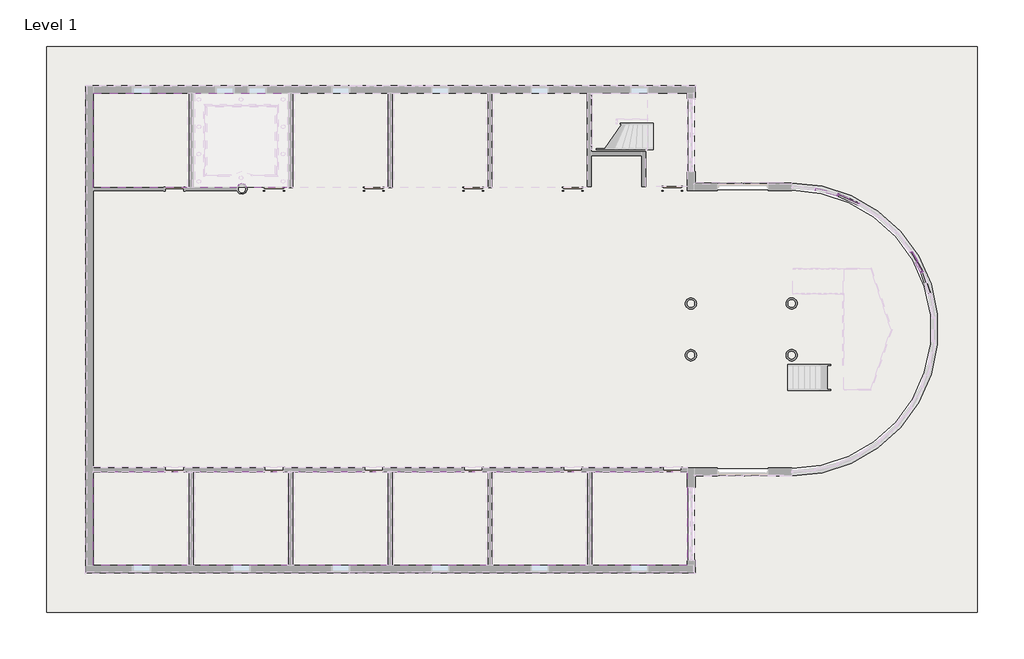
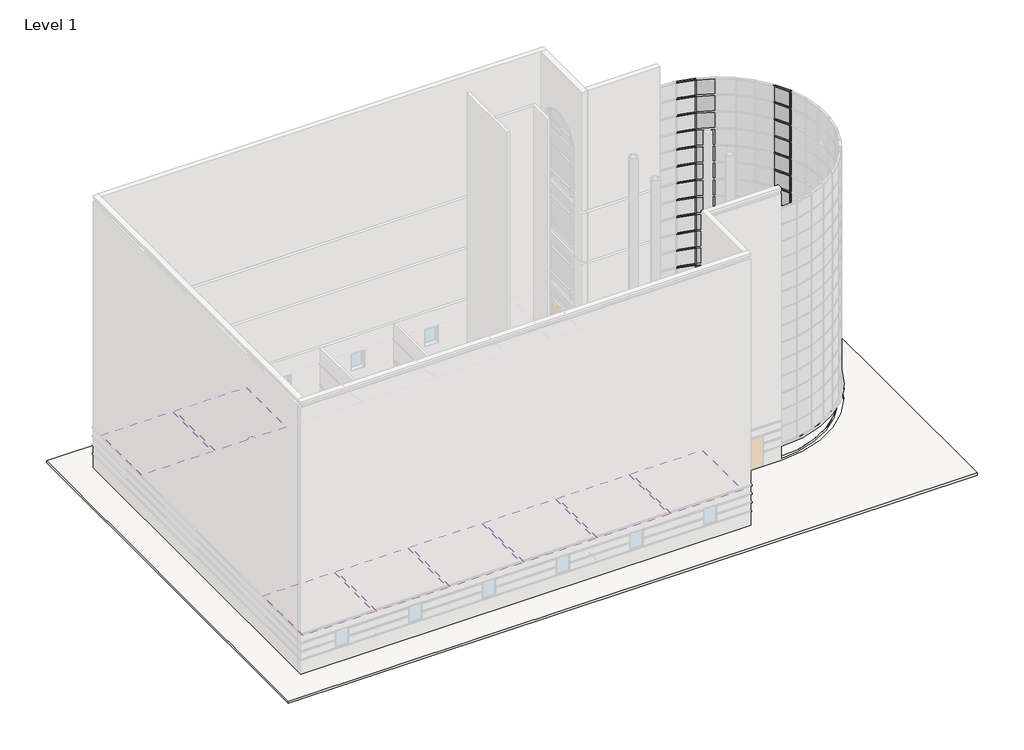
# One storey, part 15 of 20: 58 members, 26 plates, 8 coverings, 2 slabs.
"""IFC4 building model written with IfcOpenShell, lengths in millimetres."""

from ifc_helpers import new_model, si_unit, point, frame, frame_2d, origin, place, context, project, spatial, polyline, circle_curve, trimmed, segment, composite_curve, outline, extrude, transform, mapped, element, save
from components import member_68fe8548, member_f830fa99, member_935f61b8, system_panel_glazed_da602fa6, system_panel_glazed_77fd207e

model = new_model("IFC4")

# Units and contexts
model_context = context("Model", 3, world=origin())
ifc_project = project(units=[si_unit("LENGTHUNIT", "METRE", prefix="MILLI")], contexts=[model_context])

# Site, building, storey
site = spatial("IfcSite", under=ifc_project)
building = spatial("IfcBuilding", under=site)
storey = spatial("IfcBuildingStorey", under=building, Name="Level 1", Elevation=0.0)

# Coverings
placement = place(None, origin())
element("IfcCovering", 1, ObjectType="2' x 4' ACT System", at=placement, inside=storey, context=model_context, shape_type="SweptSolid", body=[
    extrude(outline(polyline([(-17066.4410279, 4612.5398319), (-17066.4410279, 9333.7648319), (-12240.9701946, 9333.7648319), (-12240.9701946, 4612.5398319), (-17066.4410279, 4612.5398319)])), frame((0.0, 0.0, 2438.4), z_axis=(0.0, 0.0, 1.0), x_axis=(1.0, 0.0, 0.0)), (0.0, 0.0, 1.0), 57.15),
])
element("IfcCovering", 2, ObjectType="2' x 4' ACT System", at=placement, inside=storey, context=model_context, shape_type="SweptSolid", body=[
    extrude(outline(polyline([(12708.7089721, -9624.1601681), (12708.7089721, -14345.3851681), (7883.2381388, -14345.3851681), (7883.2381388, -9624.1601681), (12708.7089721, -9624.1601681)])), frame((0.0, 0.0, 2438.4), z_axis=(0.0, 0.0, 1.0), x_axis=(1.0, 0.0, 0.0)), (0.0, 0.0, 1.0), 57.15),
])
element("IfcCovering", 3, ObjectType="2' x 4' ACT System", at=placement, inside=storey, context=model_context, shape_type="SweptSolid", body=[
    extrude(outline(polyline([(7727.6631388, -14345.3851681), (2891.0798054, -14345.3851681), (2891.0798054, -9624.1601681), (7727.6631388, -9624.1601681), (7727.6631388, -14345.3851681)])), frame((0.0, 0.0, 2438.4), z_axis=(0.0, 0.0, 1.0), x_axis=(1.0, 0.0, 0.0)), (0.0, 0.0, 1.0), 57.15),
])
element("IfcCovering", 4, ObjectType="2' x 4' ACT System", at=placement, inside=storey, context=model_context, shape_type="SweptSolid", body=[
    extrude(outline(polyline([(2735.5048054, -14345.3851681), (-2101.0785279, -14345.3851681), (-2101.0785279, -9624.1601681), (2735.5048054, -9624.1601681), (2735.5048054, -14345.3851681)])), frame((0.0, 0.0, 2438.4), z_axis=(0.0, 0.0, 1.0), x_axis=(1.0, 0.0, 0.0)), (0.0, 0.0, 1.0), 57.15),
])
element("IfcCovering", 5, ObjectType="2' x 4' ACT System", at=placement, inside=storey, context=model_context, shape_type="SweptSolid", body=[
    extrude(outline(polyline([(-2256.6535279, -14345.3851681), (-7093.2368612, -14345.3851681), (-7093.2368612, -9624.1601681), (-2256.6535279, -9624.1601681), (-2256.6535279, -14345.3851681)])), frame((0.0, 0.0, 2438.4), z_axis=(0.0, 0.0, 1.0), x_axis=(1.0, 0.0, 0.0)), (0.0, 0.0, 1.0), 57.15),
])
element("IfcCovering", 6, ObjectType="2' x 4' ACT System", at=placement, inside=storey, context=model_context, shape_type="SweptSolid", body=[
    extrude(outline(polyline([(-7248.8118612, -14345.3851681), (-12085.3951946, -14345.3851681), (-12085.3951946, -9624.1601681), (-7248.8118612, -9624.1601681), (-7248.8118612, -14345.3851681)])), frame((0.0, 0.0, 2438.4), z_axis=(0.0, 0.0, 1.0), x_axis=(1.0, 0.0, 0.0)), (0.0, 0.0, 1.0), 57.15),
])
element("IfcCovering", 7, ObjectType="2' x 4' ACT System", at=placement, inside=storey, context=model_context, shape_type="SweptSolid", body=[
    extrude(outline(polyline([(-12240.9701946, -14345.3851681), (-17066.4410279, -14345.3851681), (-17066.4410279, -9624.1601681), (-12240.9701946, -9624.1601681), (-12240.9701946, -14345.3851681)])), frame((0.0, 0.0, 2438.4), z_axis=(0.0, 0.0, 1.0), x_axis=(1.0, 0.0, 0.0)), (0.0, 0.0, 1.0), 57.15),
])
element("IfcCovering", 8, ObjectType="GWB on Mtl. Stud", at=placement, inside=storey, context=model_context, shape_type="SweptSolid", body=[
    extrude(outline(composite_curve([segment(polyline([(-12085.3951946, 4612.5398319), (-12085.3951946, 9333.7648319), (-7248.8118612, 9333.7648319), (-7248.8118612, 4612.5398319), (-9370.870823, 4612.5398319)]), True, "CONTINUOUS"), segment(trimmed(circle_curve(frame_2d((-9622.6535279, 4534.7523319)), 263.525), [point((-9370.870823, 4612.5398319))], [point((-9874.4362328, 4612.5398319))], True, "CARTESIAN"), True, "CONTINUOUS"), segment(polyline([(-9874.4362328, 4612.5398319), (-12085.3951946, 4612.5398319)]), True, "CONTINUOUS")], self_intersect=False), holes=[composite_curve([segment(trimmed(circle_curve(frame_2d((-11780.5951946, 9028.9648319)), 101.6), [point((-11678.9951946, 9028.9648319))], [point((-11882.1951946, 9028.9648319))], True, "CARTESIAN"), True, "CONTINUOUS"), segment(trimmed(circle_curve(frame_2d((-11780.5951946, 9028.9648319)), 101.6), [point((-11882.1951946, 9028.9648319))], [point((-11678.9951946, 9028.9648319))], True, "CARTESIAN"), True, "CONTINUOUS")], self_intersect=False), composite_curve([segment(trimmed(circle_curve(frame_2d((-7553.6118612, 9028.9648319)), 101.6), [point((-7452.0118612, 9028.9648319))], [point((-7655.2118612, 9028.9648319))], True, "CARTESIAN"), True, "CONTINUOUS"), segment(trimmed(circle_curve(frame_2d((-7553.6118612, 9028.9648319)), 101.6), [point((-7655.2118612, 9028.9648319))], [point((-7452.0118612, 9028.9648319))], True, "CARTESIAN"), True, "CONTINUOUS")], self_intersect=False), composite_curve([segment(trimmed(circle_curve(frame_2d((-9667.1035279, 9028.9648319)), 101.6), [point((-9565.5035279, 9028.9648319))], [point((-9768.7035279, 9028.9648319))], True, "CARTESIAN"), True, "CONTINUOUS"), segment(trimmed(circle_curve(frame_2d((-9667.1035279, 9028.9648319)), 101.6), [point((-9768.7035279, 9028.9648319))], [point((-9565.5035279, 9028.9648319))], True, "CARTESIAN"), True, "CONTINUOUS")], self_intersect=False), composite_curve([segment(trimmed(circle_curve(frame_2d((-7553.6118612, 4917.3398319)), 101.6), [point((-7452.0118612, 4917.3398319))], [point((-7655.2118612, 4917.3398319))], True, "CARTESIAN"), True, "CONTINUOUS"), segment(trimmed(circle_curve(frame_2d((-7553.6118612, 4917.3398319)), 101.6), [point((-7655.2118612, 4917.3398319))], [point((-7452.0118612, 4917.3398319))], True, "CARTESIAN"), True, "CONTINUOUS")], self_intersect=False), composite_curve([segment(trimmed(circle_curve(frame_2d((-11780.5951946, 4917.3398319)), 101.6), [point((-11678.9951946, 4917.3398319))], [point((-11882.1951946, 4917.3398319))], True, "CARTESIAN"), True, "CONTINUOUS"), segment(trimmed(circle_curve(frame_2d((-11780.5951946, 4917.3398319)), 101.6), [point((-11882.1951946, 4917.3398319))], [point((-11678.9951946, 4917.3398319))], True, "CARTESIAN"), True, "CONTINUOUS")], self_intersect=False), composite_curve([segment(trimmed(circle_curve(frame_2d((-7553.6118612, 6287.8814986)), 101.6), [point((-7452.0118612, 6287.8814986))], [point((-7655.2118612, 6287.8814986))], True, "CARTESIAN"), True, "CONTINUOUS"), segment(trimmed(circle_curve(frame_2d((-7553.6118612, 6287.8814986)), 101.6), [point((-7655.2118612, 6287.8814986))], [point((-7452.0118612, 6287.8814986))], True, "CARTESIAN"), True, "CONTINUOUS")], self_intersect=False), composite_curve([segment(trimmed(circle_curve(frame_2d((-11780.5951946, 6287.8814986)), 101.6), [point((-11678.9951946, 6287.8814986))], [point((-11882.1951946, 6287.8814986))], True, "CARTESIAN"), True, "CONTINUOUS"), segment(trimmed(circle_curve(frame_2d((-11780.5951946, 6287.8814986)), 101.6), [point((-11882.1951946, 6287.8814986))], [point((-11678.9951946, 6287.8814986))], True, "CARTESIAN"), True, "CONTINUOUS")], self_intersect=False), composite_curve([segment(trimmed(circle_curve(frame_2d((-7553.6118612, 7658.4231653)), 101.6), [point((-7452.0118612, 7658.4231653))], [point((-7655.2118612, 7658.4231653))], True, "CARTESIAN"), True, "CONTINUOUS"), segment(trimmed(circle_curve(frame_2d((-7553.6118612, 7658.4231653)), 101.6), [point((-7655.2118612, 7658.4231653))], [point((-7452.0118612, 7658.4231653))], True, "CARTESIAN"), True, "CONTINUOUS")], self_intersect=False), composite_curve([segment(trimmed(circle_curve(frame_2d((-11780.5951946, 7658.4231653)), 101.6), [point((-11678.9951946, 7658.4231653))], [point((-11882.1951946, 7658.4231653))], True, "CARTESIAN"), True, "CONTINUOUS"), segment(trimmed(circle_curve(frame_2d((-11780.5951946, 7658.4231653)), 101.6), [point((-11882.1951946, 7658.4231653))], [point((-11678.9951946, 7658.4231653))], True, "CARTESIAN"), True, "CONTINUOUS")], self_intersect=False), composite_curve([segment(trimmed(circle_curve(frame_2d((-9667.1035279, 5095.1398319)), 101.6), [point((-9768.7035279, 5095.1398319))], [point((-9565.5035279, 5095.1398319))], True, "CARTESIAN"), True, "CONTINUOUS"), segment(trimmed(circle_curve(frame_2d((-9667.1035279, 5095.1398319)), 101.6), [point((-9565.5035279, 5095.1398319))], [point((-9768.7035279, 5095.1398319))], True, "CARTESIAN"), True, "CONTINUOUS")], self_intersect=False), composite_curve([segment(polyline([(-11475.7951946, 8724.1648319), (-11475.7951946, 5222.1398319), (-10161.0267167, 5222.1398319)]), True, "CONTINUOUS"), segment(trimmed(circle_curve(frame_2d((-9622.6535279, 4534.7523319)), 873.125), [point((-10161.0267167, 5222.1398319))], [point((-9084.2803391, 5222.1398319))], False, "CARTESIAN"), True, "CONTINUOUS"), segment(polyline([(-9084.2803391, 5222.1398319), (-7858.4118612, 5222.1398319), (-7858.4118612, 8724.1648319), (-11475.7951946, 8724.1648319)]), True, "CONTINUOUS")], self_intersect=False)]), frame((0.0, 0.0, 2438.4), z_axis=(0.0, 0.0, 1.0), x_axis=(1.0, 0.0, 0.0)), (0.0, 0.0, 1.0), 107.95),
])

# Members
member_shape = member_68fe8548(model_context)
element("IfcMember", 9, ObjectType="Rectangular Mullion : 2.5\" x 5\" rectangular", at=placement, inside=storey, context=model_context, shape_type="MappedRepresentation", body=[
    mapped(member_shape, transform((20225.1809709, 4254.1614601, 17983.2), x_axis=(0.0, 0.0, 1.0), y_axis=(-0.2454854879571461, -0.9694002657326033, 0.0), z_axis=(0.9694002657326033, -0.2454854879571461, 0.0))),
])
element("IfcMember", 10, ObjectType="Rectangular Mullion : 2.5\" x 5\" rectangular", at=placement, inside=storey, context=model_context, shape_type="MappedRepresentation", body=[
    mapped(member_shape, transform((24460.516975, 389.8117372, 17983.2), x_axis=(0.0, 0.0, 1.0), y_axis=(-0.8794737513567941, -0.47594739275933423, 0.0), z_axis=(0.47594739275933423, -0.8794737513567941, 0.0))),
])
element("IfcMember", 11, ObjectType="Rectangular Mullion : 2.5\" x 5\" rectangular", at=placement, inside=storey, context=model_context, shape_type="MappedRepresentation", body=[
    mapped(member_shape, transform((20285.0352325, 4233.6134661, 1092.2), x_axis=(0.0, 0.0, -1.0), y_axis=(-0.40169542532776, -0.9157733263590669, 0.0), z_axis=(-0.9157733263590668, 0.4016954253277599, 0.0))),
])
element("IfcMember", 12, ObjectType="Rectangular Mullion : 2.5\" x 5\" rectangular", at=placement, inside=storey, context=model_context, shape_type="MappedRepresentation", body=[
    mapped(member_shape, transform((24485.9375128, 331.8587482, 1092.2), x_axis=(0.0, 0.0, -1.0), y_axis=(-0.9458172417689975, -0.3246994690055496, 0.0), z_axis=(-0.3246994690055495, 0.9458172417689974, 0.0))),
])
member_2_shape = member_f830fa99(model_context)
element("IfcMember", 13, ObjectType="Rectangular Mullion : 2.5\" x 5\" rectangular", at=placement, inside=storey, context=model_context, shape_type="MappedRepresentation", body=[
    mapped(member_2_shape, transform((20225.1809709, 4254.1614601, 2298.7), x_axis=(0.0, 0.0, 1.0), y_axis=(-0.24548548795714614, -0.9694002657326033, 0.0), z_axis=(0.9694002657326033, -0.24548548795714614, 0.0))),
])
element("IfcMember", 14, ObjectType="Rectangular Mullion : 2.5\" x 5\" rectangular", at=placement, inside=storey, context=model_context, shape_type="MappedRepresentation", body=[
    mapped(member_2_shape, transform((24460.516975, 389.8117372, 2298.7), x_axis=(0.0, 0.0, 1.0), y_axis=(-0.8794737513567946, -0.47594739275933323, 0.0), z_axis=(0.47594739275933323, -0.8794737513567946, 0.0))),
])
element("IfcMember", 15, ObjectType="Rectangular Mullion : 2.5\" x 5\" rectangular", at=placement, inside=storey, context=model_context, shape_type="MappedRepresentation", body=[
    mapped(member_2_shape, transform((20225.1809709, 4254.1614601, 3505.2), x_axis=(0.0, 0.0, 1.0), y_axis=(-0.24548548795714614, -0.9694002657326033, 0.0), z_axis=(0.9694002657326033, -0.24548548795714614, 0.0))),
])
element("IfcMember", 16, ObjectType="Rectangular Mullion : 2.5\" x 5\" rectangular", at=placement, inside=storey, context=model_context, shape_type="MappedRepresentation", body=[
    mapped(member_2_shape, transform((24460.516975, 389.8117372, 3505.2), x_axis=(0.0, 0.0, 1.0), y_axis=(-0.8794737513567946, -0.47594739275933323, 0.0), z_axis=(0.47594739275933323, -0.8794737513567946, 0.0))),
])
element("IfcMember", 17, ObjectType="Rectangular Mullion : 2.5\" x 5\" rectangular", at=placement, inside=storey, context=model_context, shape_type="MappedRepresentation", body=[
    mapped(member_2_shape, transform((20225.1809709, 4254.1614601, 4711.7), x_axis=(0.0, 0.0, 1.0), y_axis=(-0.24548548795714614, -0.9694002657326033, 0.0), z_axis=(0.9694002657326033, -0.24548548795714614, 0.0))),
])
element("IfcMember", 18, ObjectType="Rectangular Mullion : 2.5\" x 5\" rectangular", at=placement, inside=storey, context=model_context, shape_type="MappedRepresentation", body=[
    mapped(member_2_shape, transform((24460.516975, 389.8117372, 4711.7), x_axis=(0.0, 0.0, 1.0), y_axis=(-0.8794737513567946, -0.47594739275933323, 0.0), z_axis=(0.47594739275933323, -0.8794737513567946, 0.0))),
])
element("IfcMember", 19, ObjectType="Rectangular Mullion : 2.5\" x 5\" rectangular", at=placement, inside=storey, context=model_context, shape_type="MappedRepresentation", body=[
    mapped(member_2_shape, transform((20225.1809709, 4254.1614601, 5918.2), x_axis=(0.0, 0.0, 1.0), y_axis=(-0.24548548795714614, -0.9694002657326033, 0.0), z_axis=(0.9694002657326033, -0.24548548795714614, 0.0))),
])
element("IfcMember", 20, ObjectType="Rectangular Mullion : 2.5\" x 5\" rectangular", at=placement, inside=storey, context=model_context, shape_type="MappedRepresentation", body=[
    mapped(member_2_shape, transform((24460.516975, 389.8117372, 5918.2), x_axis=(0.0, 0.0, 1.0), y_axis=(-0.8794737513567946, -0.47594739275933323, 0.0), z_axis=(0.47594739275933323, -0.8794737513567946, 0.0))),
])
element("IfcMember", 21, ObjectType="Rectangular Mullion : 2.5\" x 5\" rectangular", at=placement, inside=storey, context=model_context, shape_type="MappedRepresentation", body=[
    mapped(member_2_shape, transform((20225.1809709, 4254.1614601, 7124.7), x_axis=(0.0, 0.0, 1.0), y_axis=(-0.24548548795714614, -0.9694002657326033, 0.0), z_axis=(0.9694002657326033, -0.24548548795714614, 0.0))),
])
element("IfcMember", 22, ObjectType="Rectangular Mullion : 2.5\" x 5\" rectangular", at=placement, inside=storey, context=model_context, shape_type="MappedRepresentation", body=[
    mapped(member_2_shape, transform((24460.516975, 389.8117372, 7124.7), x_axis=(0.0, 0.0, 1.0), y_axis=(-0.8794737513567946, -0.47594739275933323, 0.0), z_axis=(0.47594739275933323, -0.8794737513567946, 0.0))),
])
element("IfcMember", 23, ObjectType="Rectangular Mullion : 2.5\" x 5\" rectangular", at=placement, inside=storey, context=model_context, shape_type="MappedRepresentation", body=[
    mapped(member_2_shape, transform((20225.1809709, 4254.1614601, 8331.2), x_axis=(0.0, 0.0, 1.0), y_axis=(-0.24548548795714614, -0.9694002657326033, 0.0), z_axis=(0.9694002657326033, -0.24548548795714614, 0.0))),
])
element("IfcMember", 24, ObjectType="Rectangular Mullion : 2.5\" x 5\" rectangular", at=placement, inside=storey, context=model_context, shape_type="MappedRepresentation", body=[
    mapped(member_2_shape, transform((24460.516975, 389.8117372, 8331.2), x_axis=(0.0, 0.0, 1.0), y_axis=(-0.8794737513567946, -0.47594739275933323, 0.0), z_axis=(0.47594739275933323, -0.8794737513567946, 0.0))),
])
element("IfcMember", 25, ObjectType="Rectangular Mullion : 2.5\" x 5\" rectangular", at=placement, inside=storey, context=model_context, shape_type="MappedRepresentation", body=[
    mapped(member_2_shape, transform((20225.1809709, 4254.1614601, 9537.7), x_axis=(0.0, 0.0, 1.0), y_axis=(-0.24548548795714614, -0.9694002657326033, 0.0), z_axis=(0.9694002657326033, -0.24548548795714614, 0.0))),
])
element("IfcMember", 26, ObjectType="Rectangular Mullion : 2.5\" x 5\" rectangular", at=placement, inside=storey, context=model_context, shape_type="MappedRepresentation", body=[
    mapped(member_2_shape, transform((24460.516975, 389.8117372, 9537.7), x_axis=(0.0, 0.0, 1.0), y_axis=(-0.8794737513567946, -0.47594739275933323, 0.0), z_axis=(0.47594739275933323, -0.8794737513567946, 0.0))),
])
element("IfcMember", 27, ObjectType="Rectangular Mullion : 2.5\" x 5\" rectangular", at=placement, inside=storey, context=model_context, shape_type="MappedRepresentation", body=[
    mapped(member_2_shape, transform((20225.1809709, 4254.1614601, 10744.2), x_axis=(0.0, 0.0, 1.0), y_axis=(-0.24548548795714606, -0.9694002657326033, 0.0), z_axis=(0.9694002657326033, -0.24548548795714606, 0.0))),
])
element("IfcMember", 28, ObjectType="Rectangular Mullion : 2.5\" x 5\" rectangular", at=placement, inside=storey, context=model_context, shape_type="MappedRepresentation", body=[
    mapped(member_2_shape, transform((24460.516975, 389.8117372, 10744.2), x_axis=(0.0, 0.0, 1.0), y_axis=(-0.8794737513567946, -0.47594739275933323, 0.0), z_axis=(0.47594739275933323, -0.8794737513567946, 0.0))),
])
element("IfcMember", 29, ObjectType="Rectangular Mullion : 2.5\" x 5\" rectangular", at=placement, inside=storey, context=model_context, shape_type="MappedRepresentation", body=[
    mapped(member_2_shape, transform((20225.1809709, 4254.1614601, 11950.7), x_axis=(0.0, 0.0, 1.0), y_axis=(-0.24548548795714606, -0.9694002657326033, 0.0), z_axis=(0.9694002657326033, -0.24548548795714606, 0.0))),
])
element("IfcMember", 30, ObjectType="Rectangular Mullion : 2.5\" x 5\" rectangular", at=placement, inside=storey, context=model_context, shape_type="MappedRepresentation", body=[
    mapped(member_2_shape, transform((24460.516975, 389.8117372, 11950.7), x_axis=(0.0, 0.0, 1.0), y_axis=(-0.879473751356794, -0.4759473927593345, 0.0), z_axis=(0.4759473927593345, -0.879473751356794, 0.0))),
])
element("IfcMember", 31, ObjectType="Rectangular Mullion : 2.5\" x 5\" rectangular", at=placement, inside=storey, context=model_context, shape_type="MappedRepresentation", body=[
    mapped(member_2_shape, transform((20225.1809709, 4254.1614601, 13157.2), x_axis=(0.0, 0.0, 1.0), y_axis=(-0.24548548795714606, -0.9694002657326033, 0.0), z_axis=(0.9694002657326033, -0.24548548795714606, 0.0))),
])
element("IfcMember", 32, ObjectType="Rectangular Mullion : 2.5\" x 5\" rectangular", at=placement, inside=storey, context=model_context, shape_type="MappedRepresentation", body=[
    mapped(member_2_shape, transform((24460.516975, 389.8117372, 13157.2), x_axis=(0.0, 0.0, 1.0), y_axis=(-0.879473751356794, -0.4759473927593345, 0.0), z_axis=(0.4759473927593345, -0.879473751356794, 0.0))),
])
element("IfcMember", 33, ObjectType="Rectangular Mullion : 2.5\" x 5\" rectangular", at=placement, inside=storey, context=model_context, shape_type="MappedRepresentation", body=[
    mapped(member_2_shape, transform((20225.1809709, 4254.1614601, 14363.7), x_axis=(0.0, 0.0, 1.0), y_axis=(-0.24548548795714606, -0.9694002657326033, 0.0), z_axis=(0.9694002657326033, -0.24548548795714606, 0.0))),
])
element("IfcMember", 34, ObjectType="Rectangular Mullion : 2.5\" x 5\" rectangular", at=placement, inside=storey, context=model_context, shape_type="MappedRepresentation", body=[
    mapped(member_2_shape, transform((24460.516975, 389.8117372, 14363.7), x_axis=(0.0, 0.0, 1.0), y_axis=(-0.879473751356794, -0.4759473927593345, 0.0), z_axis=(0.4759473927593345, -0.879473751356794, 0.0))),
])
element("IfcMember", 35, ObjectType="Rectangular Mullion : 2.5\" x 5\" rectangular", at=placement, inside=storey, context=model_context, shape_type="MappedRepresentation", body=[
    mapped(member_2_shape, transform((20225.1809709, 4254.1614601, 15570.2), x_axis=(0.0, 0.0, 1.0), y_axis=(-0.2454854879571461, -0.9694002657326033, 0.0), z_axis=(0.9694002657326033, -0.2454854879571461, 0.0))),
])
element("IfcMember", 36, ObjectType="Rectangular Mullion : 2.5\" x 5\" rectangular", at=placement, inside=storey, context=model_context, shape_type="MappedRepresentation", body=[
    mapped(member_2_shape, transform((24460.516975, 389.8117372, 15570.2), x_axis=(0.0, 0.0, 1.0), y_axis=(-0.8794737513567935, -0.47594739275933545, 0.0), z_axis=(0.47594739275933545, -0.8794737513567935, 0.0))),
])
element("IfcMember", 37, ObjectType="Rectangular Mullion : 2.5\" x 5\" rectangular", at=placement, inside=storey, context=model_context, shape_type="MappedRepresentation", body=[
    mapped(member_2_shape, transform((20225.1809709, 4254.1614601, 16776.7), x_axis=(0.0, 0.0, 1.0), y_axis=(-0.2454854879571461, -0.9694002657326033, 0.0), z_axis=(0.9694002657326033, -0.2454854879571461, 0.0))),
])
element("IfcMember", 38, ObjectType="Rectangular Mullion : 2.5\" x 5\" rectangular", at=placement, inside=storey, context=model_context, shape_type="MappedRepresentation", body=[
    mapped(member_2_shape, transform((24460.516975, 389.8117372, 16776.7), x_axis=(0.0, 0.0, 1.0), y_axis=(-0.8794737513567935, -0.47594739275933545, 0.0), z_axis=(0.47594739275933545, -0.8794737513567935, 0.0))),
])
member_3_shape = member_935f61b8(model_context)
element("IfcMember", 39, ObjectType="Rectangular Mullion : 2.5\" x 5\" rectangular", at=placement, inside=storey, context=model_context, shape_type="MappedRepresentation", body=[
    mapped(member_3_shape, transform((20255.9594293, 4246.3672959, 1092.2), x_axis=(0.9458172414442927, -0.32469946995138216, 0.0), y_axis=(-0.32469946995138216, -0.9458172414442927, 0.0), z_axis=(0.0, 0.0, -1.0))),
])
element("IfcMember", 40, ObjectType="Rectangular Mullion : 2.5\" x 5\" rectangular", at=placement, inside=storey, context=model_context, shape_type="MappedRepresentation", body=[
    mapped(member_3_shape, transform((24475.6283047, 361.8884456, 1092.2), x_axis=(0.40169542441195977, -0.915773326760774, 0.0), y_axis=(-0.915773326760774, -0.40169542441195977, 0.0), z_axis=(0.0, 0.0, -1.0))),
])
element("IfcMember", 41, ObjectType="Rectangular Mullion : 2.5\" x 5\" rectangular", at=placement, inside=storey, context=model_context, shape_type="MappedRepresentation", body=[
    mapped(member_3_shape, transform((20255.9594293, 4246.3672959, 2298.7), x_axis=(0.945817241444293, -0.3246994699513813, 0.0), y_axis=(-0.3246994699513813, -0.945817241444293, 0.0), z_axis=(0.0, 0.0, -1.0))),
])
element("IfcMember", 42, ObjectType="Rectangular Mullion : 2.5\" x 5\" rectangular", at=placement, inside=storey, context=model_context, shape_type="MappedRepresentation", body=[
    mapped(member_3_shape, transform((24475.6283047, 361.8884456, 2298.7), x_axis=(0.40169542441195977, -0.915773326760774, 0.0), y_axis=(-0.915773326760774, -0.40169542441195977, 0.0), z_axis=(0.0, 0.0, -1.0))),
])
element("IfcMember", 43, ObjectType="Rectangular Mullion : 2.5\" x 5\" rectangular", at=placement, inside=storey, context=model_context, shape_type="MappedRepresentation", body=[
    mapped(member_3_shape, transform((20255.9594293, 4246.3672959, 3505.2), x_axis=(0.945817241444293, -0.3246994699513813, 0.0), y_axis=(-0.3246994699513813, -0.945817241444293, 0.0), z_axis=(0.0, 0.0, -1.0))),
])
element("IfcMember", 44, ObjectType="Rectangular Mullion : 2.5\" x 5\" rectangular", at=placement, inside=storey, context=model_context, shape_type="MappedRepresentation", body=[
    mapped(member_3_shape, transform((24475.6283047, 361.8884456, 3505.2), x_axis=(0.4016954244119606, -0.9157733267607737, 0.0), y_axis=(-0.9157733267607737, -0.4016954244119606, 0.0), z_axis=(0.0, 0.0, -1.0))),
])
element("IfcMember", 45, ObjectType="Rectangular Mullion : 2.5\" x 5\" rectangular", at=placement, inside=storey, context=model_context, shape_type="MappedRepresentation", body=[
    mapped(member_3_shape, transform((20255.9594293, 4246.3672959, 4711.7), x_axis=(0.945817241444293, -0.3246994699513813, 0.0), y_axis=(-0.3246994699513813, -0.945817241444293, 0.0), z_axis=(0.0, 0.0, -1.0))),
])
element("IfcMember", 46, ObjectType="Rectangular Mullion : 2.5\" x 5\" rectangular", at=placement, inside=storey, context=model_context, shape_type="MappedRepresentation", body=[
    mapped(member_3_shape, transform((24475.6283047, 361.8884456, 4711.7), x_axis=(0.4016954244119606, -0.9157733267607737, 0.0), y_axis=(-0.9157733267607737, -0.4016954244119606, 0.0), z_axis=(0.0, 0.0, -1.0))),
])
element("IfcMember", 47, ObjectType="Rectangular Mullion : 2.5\" x 5\" rectangular", at=placement, inside=storey, context=model_context, shape_type="MappedRepresentation", body=[
    mapped(member_3_shape, transform((20255.9594293, 4246.3672959, 5918.2), x_axis=(0.945817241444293, -0.3246994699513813, 0.0), y_axis=(-0.3246994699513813, -0.945817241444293, 0.0), z_axis=(0.0, 0.0, -1.0))),
])
element("IfcMember", 48, ObjectType="Rectangular Mullion : 2.5\" x 5\" rectangular", at=placement, inside=storey, context=model_context, shape_type="MappedRepresentation", body=[
    mapped(member_3_shape, transform((24475.6283047, 361.8884456, 5918.2), x_axis=(0.4016954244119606, -0.9157733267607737, 0.0), y_axis=(-0.9157733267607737, -0.4016954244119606, 0.0), z_axis=(0.0, 0.0, -1.0))),
])
element("IfcMember", 49, ObjectType="Rectangular Mullion : 2.5\" x 5\" rectangular", at=placement, inside=storey, context=model_context, shape_type="MappedRepresentation", body=[
    mapped(member_3_shape, transform((20255.9594293, 4246.3672959, 7124.7), x_axis=(0.945817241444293, -0.3246994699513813, 0.0), y_axis=(-0.3246994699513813, -0.945817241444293, 0.0), z_axis=(0.0, 0.0, -1.0))),
])
element("IfcMember", 50, ObjectType="Rectangular Mullion : 2.5\" x 5\" rectangular", at=placement, inside=storey, context=model_context, shape_type="MappedRepresentation", body=[
    mapped(member_3_shape, transform((24475.6283047, 361.8884456, 7124.7), x_axis=(0.4016954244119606, -0.9157733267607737, 0.0), y_axis=(-0.9157733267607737, -0.4016954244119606, 0.0), z_axis=(0.0, 0.0, -1.0))),
])
element("IfcMember", 51, ObjectType="Rectangular Mullion : 2.5\" x 5\" rectangular", at=placement, inside=storey, context=model_context, shape_type="MappedRepresentation", body=[
    mapped(member_3_shape, transform((20255.9594293, 4246.3672959, 8331.2), x_axis=(0.945817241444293, -0.3246994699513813, 0.0), y_axis=(-0.3246994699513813, -0.945817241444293, 0.0), z_axis=(0.0, 0.0, -1.0))),
])
element("IfcMember", 52, ObjectType="Rectangular Mullion : 2.5\" x 5\" rectangular", at=placement, inside=storey, context=model_context, shape_type="MappedRepresentation", body=[
    mapped(member_3_shape, transform((24475.6283047, 361.8884456, 8331.2), x_axis=(0.4016954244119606, -0.9157733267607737, 0.0), y_axis=(-0.9157733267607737, -0.4016954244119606, 0.0), z_axis=(0.0, 0.0, -1.0))),
])
element("IfcMember", 53, ObjectType="Rectangular Mullion : 2.5\" x 5\" rectangular", at=placement, inside=storey, context=model_context, shape_type="MappedRepresentation", body=[
    mapped(member_3_shape, transform((20255.9594293, 4246.3672959, 9537.7), x_axis=(0.945817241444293, -0.3246994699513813, 0.0), y_axis=(-0.3246994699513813, -0.945817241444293, 0.0), z_axis=(0.0, 0.0, -1.0))),
])
element("IfcMember", 54, ObjectType="Rectangular Mullion : 2.5\" x 5\" rectangular", at=placement, inside=storey, context=model_context, shape_type="MappedRepresentation", body=[
    mapped(member_3_shape, transform((24475.6283047, 361.8884456, 9537.7), x_axis=(0.40169542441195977, -0.915773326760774, 0.0), y_axis=(-0.915773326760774, -0.40169542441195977, 0.0), z_axis=(0.0, 0.0, -1.0))),
])
element("IfcMember", 55, ObjectType="Rectangular Mullion : 2.5\" x 5\" rectangular", at=placement, inside=storey, context=model_context, shape_type="MappedRepresentation", body=[
    mapped(member_3_shape, transform((20255.9594293, 4246.3672959, 10744.2), x_axis=(0.945817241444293, -0.3246994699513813, 0.0), y_axis=(-0.3246994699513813, -0.945817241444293, 0.0), z_axis=(0.0, 0.0, -1.0))),
])
element("IfcMember", 56, ObjectType="Rectangular Mullion : 2.5\" x 5\" rectangular", at=placement, inside=storey, context=model_context, shape_type="MappedRepresentation", body=[
    mapped(member_3_shape, transform((24475.6283047, 361.8884456, 10744.2), x_axis=(0.40169542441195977, -0.915773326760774, 0.0), y_axis=(-0.915773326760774, -0.40169542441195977, 0.0), z_axis=(0.0, 0.0, -1.0))),
])
element("IfcMember", 57, ObjectType="Rectangular Mullion : 2.5\" x 5\" rectangular", at=placement, inside=storey, context=model_context, shape_type="MappedRepresentation", body=[
    mapped(member_3_shape, transform((20255.9594293, 4246.3672959, 11950.7), x_axis=(0.945817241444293, -0.3246994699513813, 0.0), y_axis=(-0.3246994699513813, -0.945817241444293, 0.0), z_axis=(0.0, 0.0, -1.0))),
])
element("IfcMember", 58, ObjectType="Rectangular Mullion : 2.5\" x 5\" rectangular", at=placement, inside=storey, context=model_context, shape_type="MappedRepresentation", body=[
    mapped(member_3_shape, transform((24475.6283047, 361.8884456, 11950.7), x_axis=(0.40169542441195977, -0.915773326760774, 0.0), y_axis=(-0.915773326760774, -0.40169542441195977, 0.0), z_axis=(0.0, 0.0, -1.0))),
])
element("IfcMember", 59, ObjectType="Rectangular Mullion : 2.5\" x 5\" rectangular", at=placement, inside=storey, context=model_context, shape_type="MappedRepresentation", body=[
    mapped(member_3_shape, transform((20255.9594293, 4246.3672959, 13157.2), x_axis=(0.945817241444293, -0.3246994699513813, 0.0), y_axis=(-0.3246994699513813, -0.945817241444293, 0.0), z_axis=(0.0, 0.0, -1.0))),
])
element("IfcMember", 60, ObjectType="Rectangular Mullion : 2.5\" x 5\" rectangular", at=placement, inside=storey, context=model_context, shape_type="MappedRepresentation", body=[
    mapped(member_3_shape, transform((24475.6283047, 361.8884456, 13157.2), x_axis=(0.40169542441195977, -0.915773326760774, 0.0), y_axis=(-0.915773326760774, -0.40169542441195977, 0.0), z_axis=(0.0, 0.0, -1.0))),
])
element("IfcMember", 61, ObjectType="Rectangular Mullion : 2.5\" x 5\" rectangular", at=placement, inside=storey, context=model_context, shape_type="MappedRepresentation", body=[
    mapped(member_3_shape, transform((20255.9594293, 4246.3672959, 14363.7), x_axis=(0.945817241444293, -0.3246994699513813, 0.0), y_axis=(-0.3246994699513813, -0.945817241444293, 0.0), z_axis=(0.0, 0.0, -1.0))),
])
element("IfcMember", 62, ObjectType="Rectangular Mullion : 2.5\" x 5\" rectangular", at=placement, inside=storey, context=model_context, shape_type="MappedRepresentation", body=[
    mapped(member_3_shape, transform((24475.6283047, 361.8884456, 14363.7), x_axis=(0.40169542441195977, -0.915773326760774, 0.0), y_axis=(-0.915773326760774, -0.40169542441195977, 0.0), z_axis=(0.0, 0.0, -1.0))),
])
element("IfcMember", 63, ObjectType="Rectangular Mullion : 2.5\" x 5\" rectangular", at=placement, inside=storey, context=model_context, shape_type="MappedRepresentation", body=[
    mapped(member_3_shape, transform((20255.9594293, 4246.3672959, 15570.2), x_axis=(0.9458172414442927, -0.32469946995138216, 0.0), y_axis=(-0.32469946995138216, -0.9458172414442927, 0.0), z_axis=(0.0, 0.0, -1.0))),
])
element("IfcMember", 64, ObjectType="Rectangular Mullion : 2.5\" x 5\" rectangular", at=placement, inside=storey, context=model_context, shape_type="MappedRepresentation", body=[
    mapped(member_3_shape, transform((24475.6283047, 361.8884456, 15570.2), x_axis=(0.40169542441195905, -0.9157733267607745, 0.0), y_axis=(-0.9157733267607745, -0.40169542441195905, 0.0), z_axis=(0.0, 0.0, -1.0))),
])
element("IfcMember", 65, ObjectType="Rectangular Mullion : 2.5\" x 5\" rectangular", at=placement, inside=storey, context=model_context, shape_type="MappedRepresentation", body=[
    mapped(member_3_shape, transform((20255.9594293, 4246.3672959, 16776.7), x_axis=(0.9458172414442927, -0.32469946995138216, 0.0), y_axis=(-0.32469946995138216, -0.9458172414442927, 0.0), z_axis=(0.0, 0.0, -1.0))),
])
element("IfcMember", 66, ObjectType="Rectangular Mullion : 2.5\" x 5\" rectangular", at=placement, inside=storey, context=model_context, shape_type="MappedRepresentation", body=[
    mapped(member_3_shape, transform((24475.6283047, 361.8884456, 16776.7), x_axis=(0.40169542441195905, -0.9157733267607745, 0.0), y_axis=(-0.9157733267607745, -0.40169542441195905, 0.0), z_axis=(0.0, 0.0, -1.0))),
])

# Plates
system_panel_glazed_shape = system_panel_glazed_da602fa6(model_context)
element("IfcPlate", 67, ObjectType="System Panel : Glazed", at=placement, inside=storey, context=model_context, shape_type="MappedRepresentation", body=[
    mapped(system_panel_glazed_shape, transform((24195.041651, 880.3671697, 1155.7), x_axis=(0.4759473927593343, -0.8794737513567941, 0.0), y_axis=(0.8794737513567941, 0.4759473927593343, 0.0), z_axis=(0.0, 0.0, 1.0))),
])
element("IfcPlate", 68, ObjectType="System Panel : Glazed", at=placement, inside=storey, context=model_context, shape_type="MappedRepresentation", body=[
    mapped(system_panel_glazed_shape, transform((20795.8379476, 4009.554621, 16808.45), x_axis=(0.9157733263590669, -0.40169542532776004, 0.0), y_axis=(0.40169542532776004, 0.9157733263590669, 0.0), z_axis=(0.0, 0.0, 1.0))),
])
element("IfcPlate", 69, ObjectType="System Panel : Glazed", at=placement, inside=storey, context=model_context, shape_type="MappedRepresentation", body=[
    mapped(system_panel_glazed_shape, transform((24195.041651, 880.3671697, 16808.45), x_axis=(0.47594739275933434, -0.8794737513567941, 0.0), y_axis=(0.8794737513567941, 0.47594739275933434, 0.0), z_axis=(0.0, 0.0, 1.0))),
])
system_panel_glazed_2_shape = system_panel_glazed_77fd207e(model_context)
element("IfcPlate", 70, ObjectType="System Panel : Glazed", at=placement, inside=storey, context=model_context, shape_type="MappedRepresentation", body=[
    mapped(system_panel_glazed_2_shape, transform((24195.041651, 880.3671697, 2330.45), x_axis=(0.47594739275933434, -0.8794737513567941, 0.0), y_axis=(0.8794737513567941, 0.47594739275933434, 0.0), z_axis=(0.0, 0.0, 1.0))),
])
element("IfcPlate", 71, ObjectType="System Panel : Glazed", at=placement, inside=storey, context=model_context, shape_type="MappedRepresentation", body=[
    mapped(system_panel_glazed_2_shape, transform((20795.8379476, 4009.554621, 3536.95), x_axis=(0.9157733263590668, -0.40169542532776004, 0.0), y_axis=(0.40169542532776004, 0.9157733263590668, 0.0), z_axis=(0.0, 0.0, 1.0))),
])
element("IfcPlate", 72, ObjectType="System Panel : Glazed", at=placement, inside=storey, context=model_context, shape_type="MappedRepresentation", body=[
    mapped(system_panel_glazed_2_shape, transform((24195.041651, 880.3671697, 3536.95), x_axis=(0.47594739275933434, -0.8794737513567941, 0.0), y_axis=(0.8794737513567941, 0.47594739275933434, 0.0), z_axis=(0.0, 0.0, 1.0))),
])
element("IfcPlate", 73, ObjectType="System Panel : Glazed", at=placement, inside=storey, context=model_context, shape_type="MappedRepresentation", body=[
    mapped(system_panel_glazed_2_shape, transform((20795.8379476, 4009.554621, 4743.45), x_axis=(0.9157733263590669, -0.40169542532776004, 0.0), y_axis=(0.40169542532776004, 0.9157733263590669, 0.0), z_axis=(0.0, 0.0, 1.0))),
])
element("IfcPlate", 74, ObjectType="System Panel : Glazed", at=placement, inside=storey, context=model_context, shape_type="MappedRepresentation", body=[
    mapped(system_panel_glazed_2_shape, transform((24195.041651, 880.3671697, 4743.45), x_axis=(0.4759473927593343, -0.8794737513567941, 0.0), y_axis=(0.8794737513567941, 0.4759473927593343, 0.0), z_axis=(0.0, 0.0, 1.0))),
])
element("IfcPlate", 75, ObjectType="System Panel : Glazed", at=placement, inside=storey, context=model_context, shape_type="MappedRepresentation", body=[
    mapped(system_panel_glazed_2_shape, transform((20795.8379476, 4009.554621, 5949.95), x_axis=(0.9157733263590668, -0.40169542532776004, 0.0), y_axis=(0.40169542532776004, 0.9157733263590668, 0.0), z_axis=(0.0, 0.0, 1.0))),
])
element("IfcPlate", 76, ObjectType="System Panel : Glazed", at=placement, inside=storey, context=model_context, shape_type="MappedRepresentation", body=[
    mapped(system_panel_glazed_2_shape, transform((24195.041651, 880.3671697, 5949.95), x_axis=(0.47594739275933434, -0.8794737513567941, 0.0), y_axis=(0.8794737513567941, 0.47594739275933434, 0.0), z_axis=(0.0, 0.0, 1.0))),
])
element("IfcPlate", 77, ObjectType="System Panel : Glazed", at=placement, inside=storey, context=model_context, shape_type="MappedRepresentation", body=[
    mapped(system_panel_glazed_2_shape, transform((20795.8379476, 4009.554621, 7156.45), x_axis=(0.9157733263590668, -0.40169542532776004, 0.0), y_axis=(0.40169542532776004, 0.9157733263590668, 0.0), z_axis=(0.0, 0.0, 1.0))),
])
element("IfcPlate", 78, ObjectType="System Panel : Glazed", at=placement, inside=storey, context=model_context, shape_type="MappedRepresentation", body=[
    mapped(system_panel_glazed_2_shape, transform((24195.041651, 880.3671697, 7156.45), x_axis=(0.47594739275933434, -0.8794737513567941, 0.0), y_axis=(0.8794737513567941, 0.47594739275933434, 0.0), z_axis=(0.0, 0.0, 1.0))),
])
element("IfcPlate", 79, ObjectType="System Panel : Glazed", at=placement, inside=storey, context=model_context, shape_type="MappedRepresentation", body=[
    mapped(system_panel_glazed_2_shape, transform((20795.8379476, 4009.554621, 8362.95), x_axis=(0.9157733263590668, -0.40169542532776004, 0.0), y_axis=(0.40169542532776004, 0.9157733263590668, 0.0), z_axis=(0.0, 0.0, 1.0))),
])
element("IfcPlate", 80, ObjectType="System Panel : Glazed", at=placement, inside=storey, context=model_context, shape_type="MappedRepresentation", body=[
    mapped(system_panel_glazed_2_shape, transform((24195.041651, 880.3671697, 8362.95), x_axis=(0.47594739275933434, -0.8794737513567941, 0.0), y_axis=(0.8794737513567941, 0.47594739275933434, 0.0), z_axis=(0.0, 0.0, 1.0))),
])
element("IfcPlate", 81, ObjectType="System Panel : Glazed", at=placement, inside=storey, context=model_context, shape_type="MappedRepresentation", body=[
    mapped(system_panel_glazed_2_shape, transform((20795.8379476, 4009.554621, 9569.45), x_axis=(0.9157733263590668, -0.40169542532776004, 0.0), y_axis=(0.40169542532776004, 0.9157733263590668, 0.0), z_axis=(0.0, 0.0, 1.0))),
])
element("IfcPlate", 82, ObjectType="System Panel : Glazed", at=placement, inside=storey, context=model_context, shape_type="MappedRepresentation", body=[
    mapped(system_panel_glazed_2_shape, transform((24195.041651, 880.3671697, 9569.45), x_axis=(0.4759473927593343, -0.8794737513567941, 0.0), y_axis=(0.8794737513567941, 0.4759473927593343, 0.0), z_axis=(0.0, 0.0, 1.0))),
])
element("IfcPlate", 83, ObjectType="System Panel : Glazed", at=placement, inside=storey, context=model_context, shape_type="MappedRepresentation", body=[
    mapped(system_panel_glazed_2_shape, transform((20795.8379476, 4009.554621, 10775.95), x_axis=(0.9157733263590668, -0.40169542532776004, 0.0), y_axis=(0.40169542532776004, 0.9157733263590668, 0.0), z_axis=(0.0, 0.0, 1.0))),
])
element("IfcPlate", 84, ObjectType="System Panel : Glazed", at=placement, inside=storey, context=model_context, shape_type="MappedRepresentation", body=[
    mapped(system_panel_glazed_2_shape, transform((24195.041651, 880.3671697, 10775.95), x_axis=(0.47594739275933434, -0.8794737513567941, 0.0), y_axis=(0.8794737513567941, 0.47594739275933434, 0.0), z_axis=(0.0, 0.0, 1.0))),
])
element("IfcPlate", 85, ObjectType="System Panel : Glazed", at=placement, inside=storey, context=model_context, shape_type="MappedRepresentation", body=[
    mapped(system_panel_glazed_2_shape, transform((20795.8379476, 4009.554621, 11982.45), x_axis=(0.9157733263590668, -0.40169542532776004, 0.0), y_axis=(0.40169542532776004, 0.9157733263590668, 0.0), z_axis=(0.0, 0.0, 1.0))),
])
element("IfcPlate", 86, ObjectType="System Panel : Glazed", at=placement, inside=storey, context=model_context, shape_type="MappedRepresentation", body=[
    mapped(system_panel_glazed_2_shape, transform((24195.041651, 880.3671697, 11982.45), x_axis=(0.47594739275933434, -0.8794737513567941, 0.0), y_axis=(0.8794737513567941, 0.47594739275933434, 0.0), z_axis=(0.0, 0.0, 1.0))),
])
element("IfcPlate", 87, ObjectType="System Panel : Glazed", at=placement, inside=storey, context=model_context, shape_type="MappedRepresentation", body=[
    mapped(system_panel_glazed_2_shape, transform((20795.8379476, 4009.554621, 13188.95), x_axis=(0.9157733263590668, -0.40169542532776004, 0.0), y_axis=(0.40169542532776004, 0.9157733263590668, 0.0), z_axis=(0.0, 0.0, 1.0))),
])
element("IfcPlate", 88, ObjectType="System Panel : Glazed", at=placement, inside=storey, context=model_context, shape_type="MappedRepresentation", body=[
    mapped(system_panel_glazed_2_shape, transform((24195.041651, 880.3671697, 13188.95), x_axis=(0.47594739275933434, -0.8794737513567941, 0.0), y_axis=(0.8794737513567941, 0.47594739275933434, 0.0), z_axis=(0.0, 0.0, 1.0))),
])
element("IfcPlate", 89, ObjectType="System Panel : Glazed", at=placement, inside=storey, context=model_context, shape_type="MappedRepresentation", body=[
    mapped(system_panel_glazed_2_shape, transform((20795.8379476, 4009.554621, 14395.45), x_axis=(0.9157733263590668, -0.40169542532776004, 0.0), y_axis=(0.40169542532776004, 0.9157733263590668, 0.0), z_axis=(0.0, 0.0, 1.0))),
])
element("IfcPlate", 90, ObjectType="System Panel : Glazed", at=placement, inside=storey, context=model_context, shape_type="MappedRepresentation", body=[
    mapped(system_panel_glazed_2_shape, transform((24195.041651, 880.3671697, 14395.45), x_axis=(0.47594739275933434, -0.8794737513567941, 0.0), y_axis=(0.8794737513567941, 0.47594739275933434, 0.0), z_axis=(0.0, 0.0, 1.0))),
])
element("IfcPlate", 91, ObjectType="System Panel : Glazed", at=placement, inside=storey, context=model_context, shape_type="MappedRepresentation", body=[
    mapped(system_panel_glazed_2_shape, transform((20795.8379476, 4009.554621, 15601.95), x_axis=(0.9157733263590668, -0.40169542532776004, 0.0), y_axis=(0.40169542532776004, 0.9157733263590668, 0.0), z_axis=(0.0, 0.0, 1.0))),
])
element("IfcPlate", 92, ObjectType="System Panel : Glazed", at=placement, inside=storey, context=model_context, shape_type="MappedRepresentation", body=[
    mapped(system_panel_glazed_2_shape, transform((24195.041651, 880.3671697, 15601.95), x_axis=(0.47594739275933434, -0.8794737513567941, 0.0), y_axis=(0.8794737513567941, 0.47594739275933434, 0.0), z_axis=(0.0, 0.0, 1.0))),
])

# Slabs
element("IfcSlab", 93, ObjectType="6\" Slab on Grade", at=placement, inside=storey, context=model_context, shape_type="SweptSolid", body=[
    extrude(outline(composite_curve([segment(polyline([(-17079.1410279, 9333.7648319), (-12085.3951946, 9333.7648319), (-12085.3951946, 4612.5398319), (-7248.8118612, 4612.5398319), (-7248.8118612, 9333.7648319), (12721.4089721, 9333.7648319), (12721.4089721, 4469.6648319), (17937.9339721, 4469.6648319)]), True, "CONTINUOUS"), segment(trimmed(circle_curve(frame_2d((17937.9339721, -2505.8101681)), 6975.475), [point((17937.9339721, 4469.6648319))], [point((17937.9339721, -9481.2851681))], False, "CARTESIAN"), True, "CONTINUOUS"), segment(polyline([(17937.9339721, -9481.2851681), (12721.4089721, -9481.2851681), (12721.4089721, -14358.0851681), (-17079.1410279, -14358.0851681), (-17079.1410279, 9333.7648319)]), True, "CONTINUOUS")], self_intersect=False)), frame((0.0, 0.0, -152.4), z_axis=(0.0, 0.0, 1.0), x_axis=(1.0, 0.0, 0.0)), (0.0, 0.0, 1.0), 152.4),
])
element("IfcSlab", 94, ObjectType="6\" Slab on Grade", at=placement, inside=storey, context=model_context, shape_type="SweptSolid", body=[
    extrude(outline(polyline([(27253.1339721, 11686.1898319), (27253.1339721, -16697.8101681), (-19418.8660279, -16697.8101681), (-19418.8660279, 11686.1898319), (27253.1339721, 11686.1898319)]), holes=[composite_curve([segment(polyline([(-17418.8660279, 9686.1898319), (-17418.8660279, -14697.8101681), (13061.1339721, -14697.8101681), (13061.1339721, -9821.0101681), (17937.9339721, -9821.0101681)]), True, "CONTINUOUS"), segment(trimmed(circle_curve(frame_2d((17937.9339721, -2505.8101681)), 7315.2), [point((17937.9339721, -9821.0101681))], [point((17937.9339721, 4809.3898319))], True, "CARTESIAN"), True, "CONTINUOUS"), segment(polyline([(17937.9339721, 4809.3898319), (13061.1339721, 4809.3898319), (13061.1339721, 9686.1898319), (-17418.8660279, 9686.1898319)]), True, "CONTINUOUS")], self_intersect=False)]), frame((0.0, 0.0, -152.4), z_axis=(0.0, 0.0, 1.0), x_axis=(1.0, 0.0, 0.0)), (0.0, 0.0, 1.0), 152.4),
])

save(model, "model.ifc")
